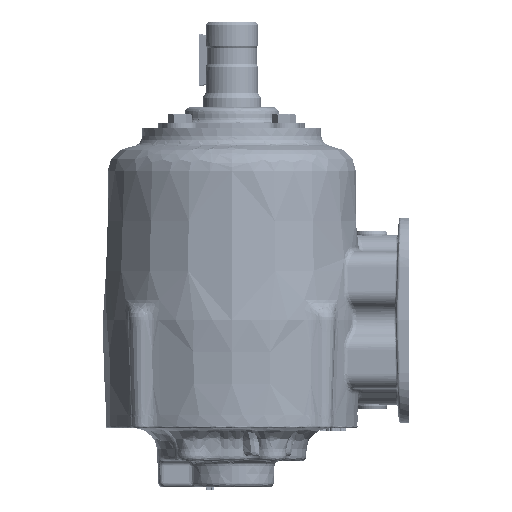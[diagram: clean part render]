
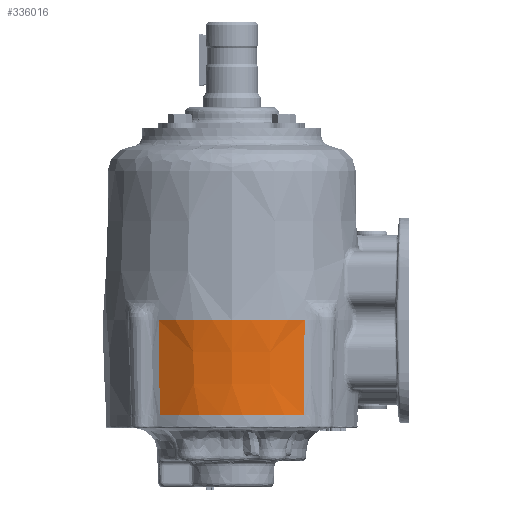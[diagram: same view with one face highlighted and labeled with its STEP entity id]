
A CAD part, left-side view. The second image highlights one B-rep face of the part: STEP entity #336016.
In plain terms, the highlighted conical face has half-angle 2 degrees and reference radius 78.232 mm.
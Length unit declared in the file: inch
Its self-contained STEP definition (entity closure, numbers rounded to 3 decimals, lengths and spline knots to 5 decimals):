
#13225 = EDGE_CURVE ( 'NONE', #365273, #340716, #96873, .T. ) ;
#15097 = ORIENTED_EDGE ( 'NONE', *, *, #196586, .T. ) ;
#31663 = CARTESIAN_POINT ( 'NONE',  ( -1.25, 3.3296, 0. ) ) ;
#33253 = B_SPLINE_CURVE_WITH_KNOTS ( 'NONE', 3,
 ( #178682, #375387, #309171, #86638 ),
 .UNSPECIFIED., .F., .F.,
 ( 4, 4 ),
 ( 0., 1. ),
 .UNSPECIFIED. ) ;
#45599 = ORIENTED_EDGE ( 'NONE', *, *, #139757, .F. ) ;
#76417 = AXIS2_PLACEMENT_3D ( 'NONE', #375664, #144817, #108520 ) ;
#81167 = VERTEX_POINT ( 'NONE', #234122 ) ;
#86552 = DIRECTION ( 'NONE',  ( 1., 0., 0. ) ) ;
#86638 = CARTESIAN_POINT ( 'NONE',  ( -3.71437, 5.04203, -2.2645 ) ) ;
#96018 = DIRECTION ( 'NONE',  ( 1., 0., 0. ) ) ;
#96873 = CIRCLE ( 'NONE', #76417, 3.00092 ) ;
#108520 = DIRECTION ( 'NONE',  ( 1., 0., 0. ) ) ;
#112913 = CARTESIAN_POINT ( 'NONE',  ( -3.79389, 1.59322, 0. ) ) ;
#121737 = VERTEX_POINT ( 'NONE', #367335 ) ;
#122049 = B_SPLINE_CURVE_WITH_KNOTS ( 'NONE', 3,
 ( #343817, #405889, #177091, #112913 ),
 .UNSPECIFIED., .F., .F.,
 ( 4, 4 ),
 ( 0., 1. ),
 .UNSPECIFIED. ) ;
#123866 = EDGE_CURVE ( 'NONE', #293768, #121737, #165429, .T. ) ;
#139757 = EDGE_CURVE ( 'NONE', #81167, #293768, #258409, .T. ) ;
#144817 = DIRECTION ( 'NONE',  ( 0., 0., -1. ) ) ;
#145600 = EDGE_LOOP ( 'NONE', ( #45599, #153847, #239248, #15097, #366589 ) ) ;
#153847 = ORIENTED_EDGE ( 'NONE', *, *, #380365, .T. ) ;
#165429 = CIRCLE ( 'NONE', #288145, 3.08 ) ;
#177091 = CARTESIAN_POINT ( 'NONE',  ( -3.76676, 1.60154, -0.77621 ) ) ;
#178682 = CARTESIAN_POINT ( 'NONE',  ( -3.79389, 5.06598, 0. ) ) ;
#183302 = AXIS2_PLACEMENT_3D ( 'NONE', #407395, #279075, #86552 ) ;
#196586 = EDGE_CURVE ( 'NONE', #365273, #121737, #122049, .T. ) ;
#234122 = CARTESIAN_POINT ( 'NONE',  ( -3.79389, 5.06598, 0. ) ) ;
#239248 = ORIENTED_EDGE ( 'NONE', *, *, #13225, .F. ) ;
#258409 = CIRCLE ( 'NONE', #183302, 3.08 ) ;
#264720 = DIRECTION ( 'NONE',  ( 1., 0., 0. ) ) ;
#279075 = DIRECTION ( 'NONE',  ( 0., 0., 1. ) ) ;
#288145 = AXIS2_PLACEMENT_3D ( 'NONE', #423196, #388998, #96018 ) ;
#293768 = VERTEX_POINT ( 'NONE', #411166 ) ;
#296848 = DIRECTION ( 'NONE',  ( 0., 0., 1. ) ) ;
#309171 = CARTESIAN_POINT ( 'NONE',  ( -3.74025, 5.04967, -1.53104 ) ) ;
#335920 = CARTESIAN_POINT ( 'NONE',  ( -3.71437, 5.04203, -2.2645 ) ) ;
#336016 = ADVANCED_FACE ( 'NONE', ( #360999 ), #400334, .T. ) ;
#340716 = VERTEX_POINT ( 'NONE', #335920 ) ;
#343817 = CARTESIAN_POINT ( 'NONE',  ( -3.71437, 1.61717, -2.2645 ) ) ;
#357771 = CARTESIAN_POINT ( 'NONE',  ( -3.71437, 1.61717, -2.2645 ) ) ;
#360999 = FACE_OUTER_BOUND ( 'NONE', #145600, .T. ) ;
#365273 = VERTEX_POINT ( 'NONE', #357771 ) ;
#366589 = ORIENTED_EDGE ( 'NONE', *, *, #123866, .F. ) ;
#367335 = CARTESIAN_POINT ( 'NONE',  ( -3.79389, 1.59322, 0. ) ) ;
#375387 = CARTESIAN_POINT ( 'NONE',  ( -3.76676, 5.05766, -0.77621 ) ) ;
#375664 = CARTESIAN_POINT ( 'NONE',  ( -1.25, 3.3296, -2.2645 ) ) ;
#380365 = EDGE_CURVE ( 'NONE', #81167, #340716, #33253, .T. ) ;
#388998 = DIRECTION ( 'NONE',  ( 0., 0., 1. ) ) ;
#400334 = CONICAL_SURFACE ( 'NONE', #407015, 3.08, 0.035 ) ;
#405889 = CARTESIAN_POINT ( 'NONE',  ( -3.74025, 1.60953, -1.53104 ) ) ;
#407015 = AXIS2_PLACEMENT_3D ( 'NONE', #31663, #296848, #264720 ) ;
#407395 = CARTESIAN_POINT ( 'NONE',  ( -1.25, 3.3296, 0. ) ) ;
#411166 = CARTESIAN_POINT ( 'NONE',  ( -4.33, 3.3296, 0. ) ) ;
#423196 = CARTESIAN_POINT ( 'NONE',  ( -1.25, 3.3296, 0. ) ) ;
